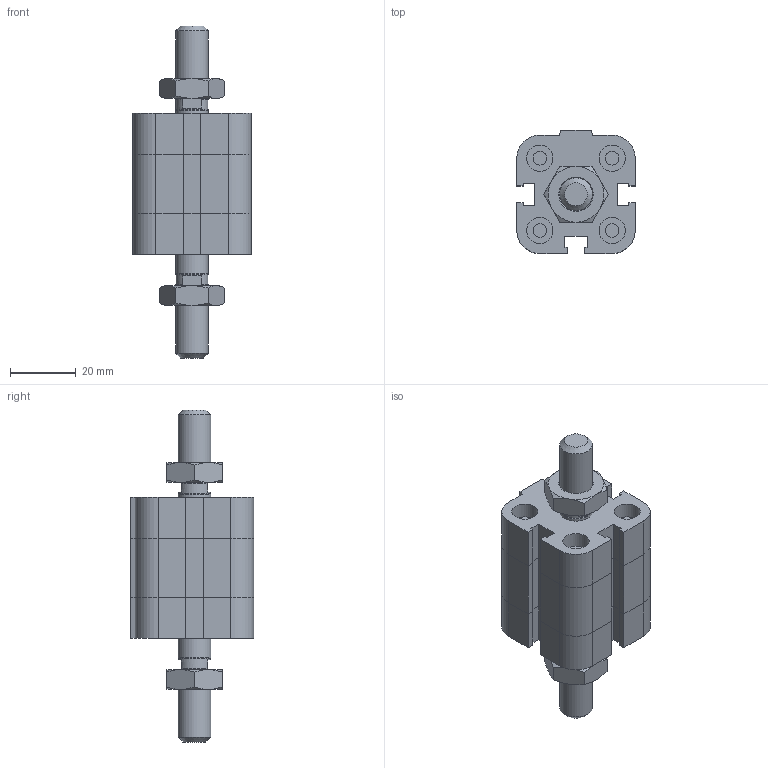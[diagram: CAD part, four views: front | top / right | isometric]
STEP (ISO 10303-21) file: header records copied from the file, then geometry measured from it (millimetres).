
FILE_DESCRIPTION((''),'2;1');
FILE_NAME('I:\Area Tecnica\Disegni\VARIE-3D\Componenti\EUROPE\15##_###_####_04_#\1581_20_0005_04_1.iam.stp','2009-04-20T14:49:42',(''),(''),'Autodesk Inventor 2009','Autodesk Inventor 2009','');
FILE_SCHEMA(('AUTOMOTIVE_DESIGN { 1 0 10303 214 1 1 1 1 }'));
Length unit declared in the file: millimetre
Products named in the file (4): 1581_20_0005_04_1; 1581_20_0005_03_1_C; 1561_20_0005_04_1_S; DBFM10
Assembly tree (4 placements, depth 2):
  1581_20_0005_04_1
    1581_20_0005_03_1_C
    1561_20_0005_04_1_S
    DBFM10  x2
Bounding box: 36 x 37.5 x 101 mm (x, y, z)
Volume: 53133.4 mm3; surface area: 18785.2 mm2
Topology: 4 solids, 4 shells, 222 faces, 483 edges, 289 vertices
Faces by surface type: plane 129, cone 35, bspline 33, cylinder 25
Full cylindrical faces by diameter (mm): 4.134 x4, 7.9 x1, 8 x4, 9.8 x2, 10 x2
Entity records: 5450 total; most frequent: CARTESIAN_POINT 1222, DIRECTION 802, ORIENTED_EDGE 772, EDGE_CURVE 386, AXIS2_PLACEMENT_3D 272, EDGE_LOOP 258, VECTOR 258, LINE 258
